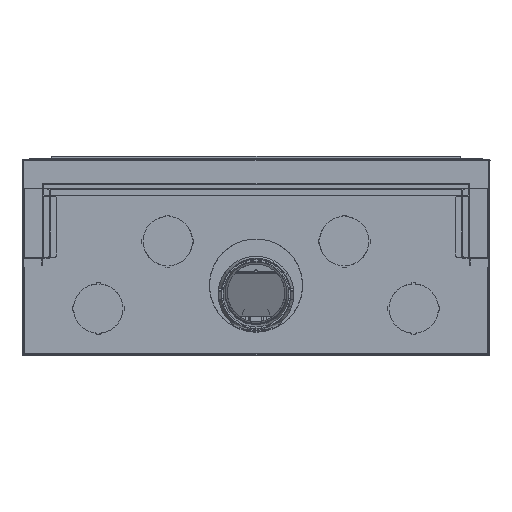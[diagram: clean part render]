
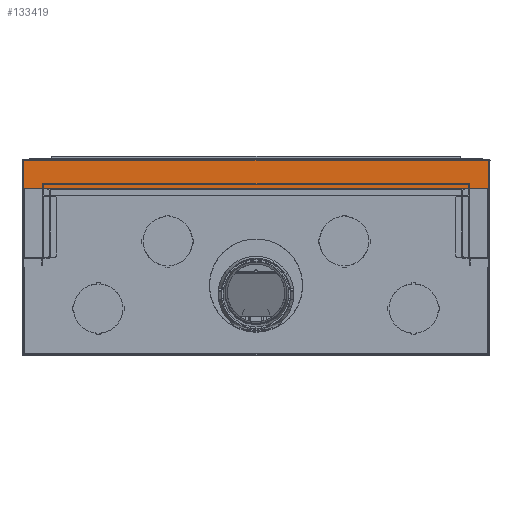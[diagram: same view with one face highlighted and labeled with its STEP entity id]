
A CAD part, top view. The second image highlights one B-rep face of the part: STEP entity #133419.
In plain terms, the highlighted planar face has unit normal (0, 0, 1).
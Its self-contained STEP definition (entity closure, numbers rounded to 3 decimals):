
#5991=FACE_OUTER_BOUND('',#13122,.T.);
#13122=EDGE_LOOP('',(#89808,#89809,#89810,#89811,#89812,#89813));
#20496=CIRCLE('',#141794,6.);
#20497=CIRCLE('',#141795,6.);
#27322=LINE('',#198940,#40483);
#27323=LINE('',#198944,#40484);
#27324=LINE('',#198946,#40485);
#27325=LINE('',#198947,#40486);
#40483=VECTOR('',#158995,10.);
#40484=VECTOR('',#158998,10.);
#40485=VECTOR('',#158999,10.);
#40486=VECTOR('',#159000,10.);
#53584=VERTEX_POINT('',#198936);
#53585=VERTEX_POINT('',#198937);
#53586=VERTEX_POINT('',#198939);
#53587=VERTEX_POINT('',#198941);
#53588=VERTEX_POINT('',#198943);
#53589=VERTEX_POINT('',#198945);
#67190=EDGE_CURVE('',#53584,#53585,#20496,.T.);
#67191=EDGE_CURVE('',#53584,#53586,#27322,.T.);
#67192=EDGE_CURVE('',#53587,#53586,#20497,.T.);
#67193=EDGE_CURVE('',#53588,#53587,#27323,.T.);
#67194=EDGE_CURVE('',#53588,#53589,#27324,.T.);
#67195=EDGE_CURVE('',#53585,#53589,#27325,.T.);
#89808=ORIENTED_EDGE('',*,*,#67190,.F.);
#89809=ORIENTED_EDGE('',*,*,#67191,.T.);
#89810=ORIENTED_EDGE('',*,*,#67192,.F.);
#89811=ORIENTED_EDGE('',*,*,#67193,.F.);
#89812=ORIENTED_EDGE('',*,*,#67194,.T.);
#89813=ORIENTED_EDGE('',*,*,#67195,.F.);
#122424=PLANE('',#141793);
#133419=ADVANCED_FACE('',(#5991),#122424,.T.);
#141793=AXIS2_PLACEMENT_3D('',#198935,#158991,#158992);
#141794=AXIS2_PLACEMENT_3D('',#198938,#158993,#158994);
#141795=AXIS2_PLACEMENT_3D('',#198942,#158996,#158997);
#158991=DIRECTION('center_axis',(0.,0.,
1.));
#158992=DIRECTION('ref_axis',(-1.,0.,0.));
#158993=DIRECTION('center_axis',(0.,0.,
-1.));
#158994=DIRECTION('ref_axis',(-0.707,-0.707,0.));
#158995=DIRECTION('',(1.,0.,0.));
#158996=DIRECTION('center_axis',(0.,0.,
-1.));
#158997=DIRECTION('ref_axis',(0.707,-0.707,0.));
#158998=DIRECTION('',(0.,-1.,0.));
#158999=DIRECTION('',(-1.,0.,0.));
#159000=DIRECTION('',(0.,1.,0.));
#198935=CARTESIAN_POINT('Origin',(0.,336.18,
1370.));
#198936=CARTESIAN_POINT('',(-655.359,-23.5,1370.));
#198937=CARTESIAN_POINT('',(-661.359,-17.5,1370.));
#198938=CARTESIAN_POINT('Origin',(-655.359,-17.5,1370.));
#198939=CARTESIAN_POINT('',(655.359,-23.5,1370.));
#198940=CARTESIAN_POINT('',(-663.,-23.5,1370.));
#198941=CARTESIAN_POINT('',(661.359,-17.5,1370.));
#198942=CARTESIAN_POINT('Origin',(655.359,-17.5,1370.));
#198943=CARTESIAN_POINT('',(661.359,56.75,1370.));
#198944=CARTESIAN_POINT('',(661.359,176.402,1370.));
#198945=CARTESIAN_POINT('',(-661.359,56.75,1370.));
#198946=CARTESIAN_POINT('',(0.,56.75,1370.));
#198947=CARTESIAN_POINT('',(-661.359,176.402,1370.));
